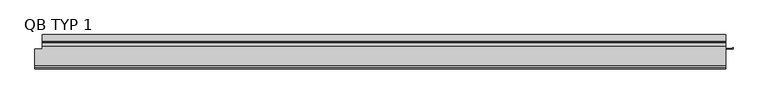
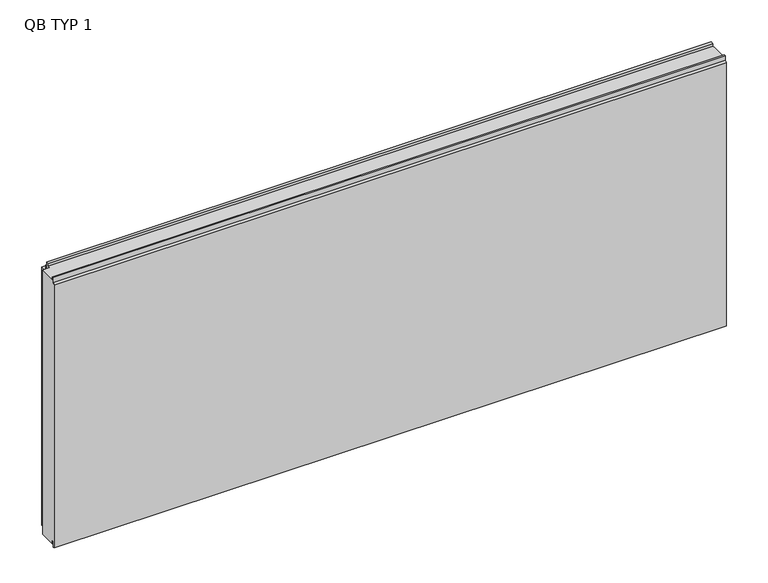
"""IFC4 building model written with IfcOpenShell, lengths in millimetres: plate geometry, TR_C_H_QBISS_Panel : QB TYP 1."""

from ifc_helpers import new_model, si_unit, frame, origin, place, context, project, spatial, polyline, outline, extrude, faceted_brep, source, transform, mapped, element, save


def qb_typ_1_69f6eb2a(model_context):
    return source(origin(), model_context, "Body", "SolidModel", [
        extrude(outline(polyline([(1212.5, -49.0), (1187.3, -49.0), (1187.3, -48.2), (1211.7, -48.2), (1211.7, -44.0), (1212.5, -44.0), (1212.5, -49.0)])), frame((0.0, 0.0, 54.0), z_axis=(0.0, 0.0, 1.0), x_axis=(1.0, 0.0, 0.0)), (0.0, 0.0, 1.0), 862.0),
        faceted_brep([(1187.5, -108.0, 1000.0), (1187.5, -108.0, 1010.0), (1187.5, -114.0, 1010.0), (1187.5, -114.0, 992.0), (1187.5, -120.0, 986.0), (1187.5, -120.0, -8.0), (1187.5, -114.0, -8.0), (1187.5, -114.0, 13.0), (1187.5, -108.0, 13.0), (1187.5, -108.0, 0.0), (1187.5, -49.0, 0.0), (1187.5, -49.0, 1000.0), (-1212.4, -108.0, 0.0), (-1212.4, -108.0, 13.0), (-1212.4, -114.0, 13.0), (-1212.4, -114.0, -8.0), (-1212.4, -120.0, -8.0), (-1212.4, -120.0, 986.0), (-1212.4, -114.0, 992.0), (-1212.4, -114.0, 1010.0), (-1212.4, -108.0, 1010.0), (-1212.4, -108.0, 1000.0), (-1212.4, -49.0, 1000.0), (-1212.4, -49.0, 0.0), (-1187.3, -49.0, 0.0), (-1187.3, -39.0, 0.0), (1187.3, -39.0, 0.0), (1187.3, -49.0, 0.0), (-1187.3, -39.0, 13.0), (1187.3, -39.0, 13.0), (-1187.3, -29.0, 13.0), (1187.3, -29.0, 13.0), (-1187.3, -29.0, -4.0), (1187.3, -29.0, -4.0), (-1187.3, 0.0, -4.0), (1187.3, 0.0, -4.0), (-1187.3, 0.0, 973.0), (1187.3, 0.0, 973.0), (-1187.3, -29.0, 973.0), (1187.3, -29.0, 973.0), (-1187.3, -29.0, 1010.0), (1187.3, -29.0, 1010.0), (-1187.3, -39.0, 1010.0), (1187.3, -39.0, 1010.0), (-1187.3, -39.0, 1000.0), (1187.3, -39.0, 1000.0), (1187.3, -49.0, 1000.0), (-1187.3, -49.0, 1000.0)], [[[0, 1, 2, 3, 4, 5, 6, 7, 8, 9, 10, 11]], [[12, 13, 14, 15, 16, 17, 18, 19, 20, 21, 22, 23]], [[9, 12, 23, 24, 25, 26, 27, 10]], [[26, 25, 28, 29]], [[29, 28, 30, 31]], [[31, 30, 32, 33]], [[33, 32, 34, 35]], [[35, 34, 36, 37]], [[37, 36, 38, 39]], [[39, 38, 40, 41]], [[41, 40, 42, 43]], [[43, 42, 44, 45]], [[21, 0, 11, 46, 45, 44, 47, 22]], [[1, 0, 21, 20]], [[2, 1, 20, 19]], [[3, 2, 19, 18]], [[4, 3, 18, 17]], [[5, 4, 17, 16]], [[6, 5, 16, 15]], [[7, 6, 15, 14]], [[8, 7, 14, 13]], [[9, 8, 13, 12]], [[47, 24, 23, 22]], [[24, 47, 44, 42, 40, 38, 36, 34, 32, 30, 28, 25]], [[46, 27, 26, 29, 31, 33, 35, 37, 39, 41, 43, 45]], [[27, 46, 11, 10]]]),
        extrude(outline(polyline([(-24.0, 994.5), (-24.0, 974.5), (-25.4998317, 974.5), (-25.4998317, 981.3023028), (-27.9998293, 981.3023028), (-27.9998293, 980.5023028), (-28.7998428, 980.5023028), (-28.7998428, 988.5023593), (-27.9998293, 988.5023593), (-27.9998293, 987.7023593), (-25.4998317, 987.7023593), (-25.4998317, 994.5), (-24.0, 994.5)])), frame((-1187.3, 0.0, 0.0), z_axis=(1.0, 0.0, 0.0), x_axis=(0.0, 1.0, 0.0)), (0.0, 0.0, 1.0), 2374.6),
    ])


if __name__ == "__main__":
    model = new_model("IFC4")
    model_context = context("Model", 3, world=origin())
    ifc_project = project(units=[si_unit("LENGTHUNIT", "METRE", prefix="MILLI")], contexts=[model_context])
    site = spatial("IfcSite", under=ifc_project)
    building = spatial("IfcBuilding", under=site)
    placement = place(None, origin())
    qb_typ_1_shape = qb_typ_1_69f6eb2a(model_context)
    element("IfcPlate", 1, ObjectType="TR_C_H_QBISS_Panel : QB TYP 1", at=placement, inside=building, context=model_context, shape_type="MappedRepresentation", body=[
        mapped(qb_typ_1_shape, transform((0.0, 0.0, 0.0), x_axis=(1.0, 0.0, 0.0), y_axis=(0.0, 1.0, 0.0), z_axis=(0.0, 0.0, 1.0))),
    ])
    save(model, "model.ifc")
